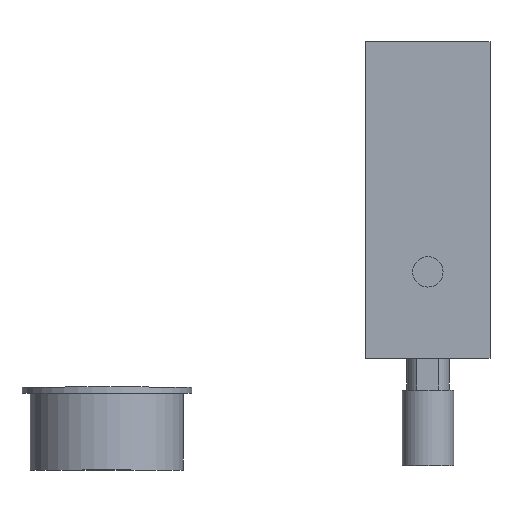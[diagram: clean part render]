
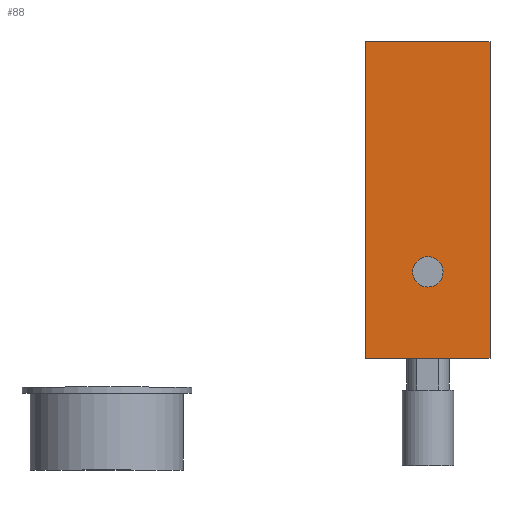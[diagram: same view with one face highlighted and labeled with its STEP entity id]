
A CAD part, top view. The second image highlights one B-rep face of the part: STEP entity #88.
In plain terms, the highlighted planar face has unit normal (0, 0, 1).
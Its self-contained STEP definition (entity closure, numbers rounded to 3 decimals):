
#88 = ADVANCED_FACE( '', ( #168, #169 ), #170, .F. );
#168 = FACE_BOUND( '', #258, .T. );
#169 = FACE_OUTER_BOUND( '', #259, .T. );
#170 = PLANE( '', #260 );
#258 = EDGE_LOOP( '', ( #336 ) );
#259 = EDGE_LOOP( '', ( #337, #338, #339, #340 ) );
#260 = AXIS2_PLACEMENT_3D( '', #341, #342, #343 );
#336 = ORIENTED_EDGE( '', *, *, #493, .F. );
#337 = ORIENTED_EDGE( '', *, *, #494, .T. );
#338 = ORIENTED_EDGE( '', *, *, #495, .F. );
#339 = ORIENTED_EDGE( '', *, *, #496, .F. );
#340 = ORIENTED_EDGE( '', *, *, #497, .T. );
#341 = CARTESIAN_POINT( '', ( 10.25, 38., 0. ) );
#342 = DIRECTION( '', ( 0., 0., -1. ) );
#343 = DIRECTION( '', ( -1., 0., 0. ) );
#493 = EDGE_CURVE( '', #549, #549, #550, .F. );
#494 = EDGE_CURVE( '', #551, #552, #553, .T. );
#495 = EDGE_CURVE( '', #554, #552, #555, .T. );
#496 = EDGE_CURVE( '', #556, #554, #557, .T. );
#497 = EDGE_CURVE( '', #556, #551, #558, .T. );
#549 = VERTEX_POINT( '', #631 );
#550 = CIRCLE( '', #632, 2.5 );
#551 = VERTEX_POINT( '', #633 );
#552 = VERTEX_POINT( '', #634 );
#553 = LINE( '', #635, #636 );
#554 = VERTEX_POINT( '', #637 );
#555 = LINE( '', #638, #639 );
#556 = VERTEX_POINT( '', #640 );
#557 = LINE( '', #641, #642 );
#558 = LINE( '', #643, #644 );
#631 = CARTESIAN_POINT( '', ( -2.5, 0., 0. ) );
#632 = AXIS2_PLACEMENT_3D( '', #732, #733, #734 );
#633 = CARTESIAN_POINT( '', ( -10.25, 38., 0. ) );
#634 = CARTESIAN_POINT( '', ( -10.25, -14.25, 0. ) );
#635 = CARTESIAN_POINT( '', ( -10.25, 38., 0. ) );
#636 = VECTOR( '', #735, 1000. );
#637 = CARTESIAN_POINT( '', ( 10.25, -14.25, 0. ) );
#638 = CARTESIAN_POINT( '', ( 10.25, -14.25, 0. ) );
#639 = VECTOR( '', #736, 1000. );
#640 = CARTESIAN_POINT( '', ( 10.25, 38., 0. ) );
#641 = CARTESIAN_POINT( '', ( 10.25, 38., 0. ) );
#642 = VECTOR( '', #737, 1000. );
#643 = CARTESIAN_POINT( '', ( 10.25, 38., 0. ) );
#644 = VECTOR( '', #738, 1000. );
#732 = CARTESIAN_POINT( '', ( 0., 0., 0. ) );
#733 = DIRECTION( '', ( 0., 0., -1. ) );
#734 = DIRECTION( '', ( -1., 0., 0. ) );
#735 = DIRECTION( '', ( 0., -1., 0. ) );
#736 = DIRECTION( '', ( -1., 0., 0. ) );
#737 = DIRECTION( '', ( 0., -1., 0. ) );
#738 = DIRECTION( '', ( -1., 0., 0. ) );
